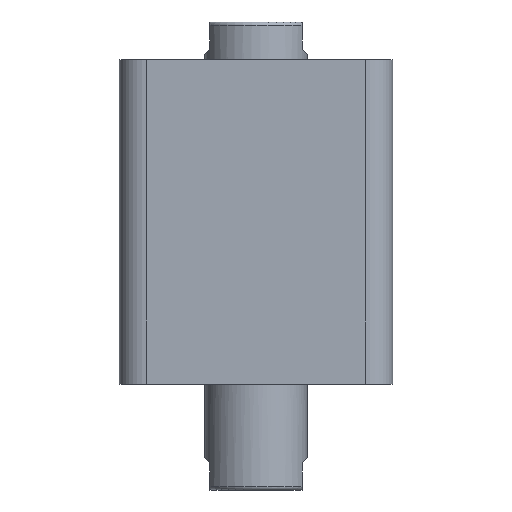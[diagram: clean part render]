
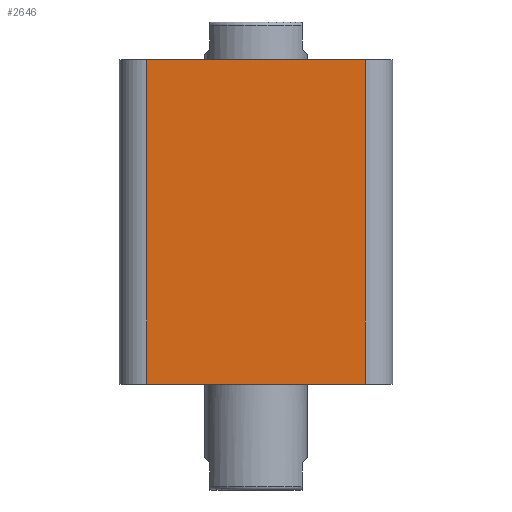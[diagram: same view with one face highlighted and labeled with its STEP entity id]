
A CAD part, front view. The second image highlights one B-rep face of the part: STEP entity #2646.
In plain terms, the highlighted planar face has unit normal (0, -1, 0).
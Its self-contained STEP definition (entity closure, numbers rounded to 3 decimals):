
#60 = VERTEX_POINT ( 'NONE', #2080 ) ;
#62 = VERTEX_POINT ( 'NONE', #2070 ) ;
#63 = VERTEX_POINT ( 'NONE', #2084 ) ;
#67 = VERTEX_POINT ( 'NONE', #2068 ) ;
#226 = FACE_OUTER_BOUND ( 'NONE', #2048, .T. ) ;
#581 = LINE ( 'NONE', #1328, #585 ) ;
#584 = LINE ( 'NONE', #1332, #587 ) ;
#585 = VECTOR ( 'NONE', #1327, 1000. ) ;
#587 = VECTOR ( 'NONE', #1333, 1000. ) ;
#636 = LINE ( 'NONE', #1486, #638 ) ;
#638 = VECTOR ( 'NONE', #1489, 1000. ) ;
#811 = EDGE_CURVE ( 'NONE', #60, #62, #2007, .T. ) ;
#903 = EDGE_CURVE ( 'NONE', #67, #60, #581, .T. ) ;
#904 = EDGE_CURVE ( 'NONE', #63, #67, #584, .T. ) ;
#947 = EDGE_CURVE ( 'NONE', #63, #62, #636, .T. ) ;
#1174 = AXIS2_PLACEMENT_3D ( 'NONE', #2264, #2273, #2274 ) ;
#1327 = DIRECTION ( 'NONE',  ( 1., 0., 0. ) ) ;
#1328 = CARTESIAN_POINT ( 'NONE',  ( -40., -40., 0. ) ) ;
#1332 = CARTESIAN_POINT ( 'NONE',  ( -32., -40., 95. ) ) ;
#1333 = DIRECTION ( 'NONE',  ( 0., 0., -1. ) ) ;
#1486 = CARTESIAN_POINT ( 'NONE',  ( -40., -40., 95. ) ) ;
#1489 = DIRECTION ( 'NONE',  ( 1., 0., 0. ) ) ;
#2007 = LINE ( 'NONE', #3032, #2010 ) ;
#2010 = VECTOR ( 'NONE', #3016, 1000. ) ;
#2048 = EDGE_LOOP ( 'NONE', ( #2861, #2862, #2860, #2855 ) ) ;
#2068 = CARTESIAN_POINT ( 'NONE',  ( -32., -40., 0. ) ) ;
#2070 = CARTESIAN_POINT ( 'NONE',  ( 32., -40., 95. ) ) ;
#2080 = CARTESIAN_POINT ( 'NONE',  ( 32., -40., 0. ) ) ;
#2084 = CARTESIAN_POINT ( 'NONE',  ( -32., -40., 95. ) ) ;
#2264 = CARTESIAN_POINT ( 'NONE',  ( -40., -40., 95. ) ) ;
#2271 = PLANE ( 'NONE',  #1174 ) ;
#2273 = DIRECTION ( 'NONE',  ( 0., 1., 0. ) ) ;
#2274 = DIRECTION ( 'NONE',  ( 0., 0., 1. ) ) ;
#2646 = ADVANCED_FACE ( 'NONE', ( #226 ), #2271, .F. ) ;
#2855 = ORIENTED_EDGE ( 'NONE', *, *, #811, .T. ) ;
#2860 = ORIENTED_EDGE ( 'NONE', *, *, #903, .T. ) ;
#2861 = ORIENTED_EDGE ( 'NONE', *, *, #947, .F. ) ;
#2862 = ORIENTED_EDGE ( 'NONE', *, *, #904, .T. ) ;
#3016 = DIRECTION ( 'NONE',  ( 0., 0., 1. ) ) ;
#3032 = CARTESIAN_POINT ( 'NONE',  ( 32., -40., 95. ) ) ;
